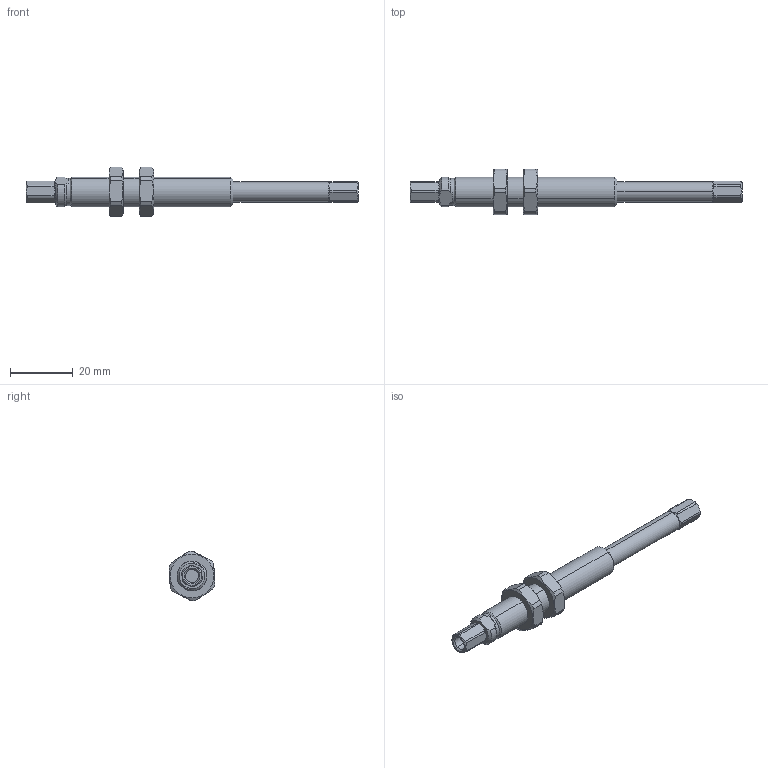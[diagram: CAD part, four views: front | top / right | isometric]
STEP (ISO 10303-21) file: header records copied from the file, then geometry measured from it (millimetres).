
FILE_DESCRIPTION (( 'STEP AP203' ), '1' );
FILE_NAME ('LC10X30-PUBLIC.STEP', '2011-06-24T14:25:41', ( '' ), ( '' ), 'SwSTEP 2.0', 'SolidWorks 2011', '' );
FILE_SCHEMA (( 'CONFIG_CONTROL_DESIGN' ));
Length unit declared in the file: inch
Products named in the file (1): LC10X30-PUBLIC
Bounding box: 105.94 x 14.64 x 15.74 mm (x, y, z)
Volume: 6299.3 mm3; surface area: 3611.1 mm2
Topology: 1 solids, 1 shells, 107 faces, 278 edges, 182 vertices
Faces by surface type: cylinder 40, plane 39, cone 28
Entity records: 3691 total; most frequent: CARTESIAN_POINT 1024, ORIENTED_EDGE 556, DIRECTION 530, EDGE_CURVE 278, AXIS2_PLACEMENT_3D 216, VERTEX_POINT 182, EDGE_LOOP 116, CIRCLE 108
